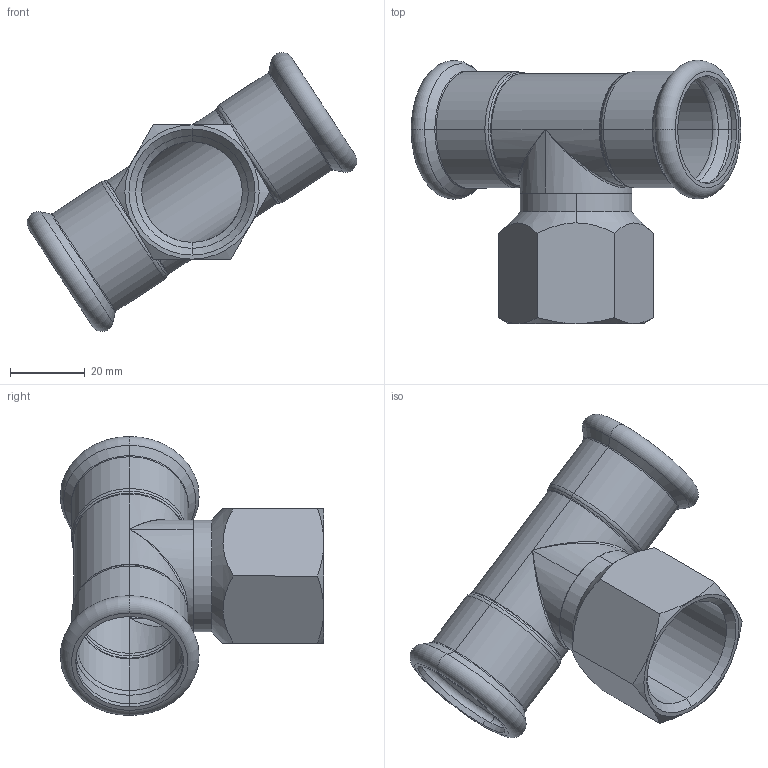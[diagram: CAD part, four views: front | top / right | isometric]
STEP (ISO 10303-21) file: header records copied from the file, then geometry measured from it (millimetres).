
FILE_DESCRIPTION (( 'STEP AP203' ), '1' );
FILE_NAME ('GDA5248.STEP', '2019-01-14T00:59:55', ( '' ), ( '' ), 'SwSTEP 2.0', 'SolidWorks 2015', '' );
FILE_SCHEMA (( 'CONFIG_CONTROL_DESIGN' ));
Length unit declared in the file: millimetre
Products named in the file (3): ITC-I-03-28℅1; T(R)-¢ñ-28¡Á28''; GDA5248
Assembly tree (2 placements, depth 2):
  GDA5248
    ITC-I-03-28℅1
    T(R)-¢ñ-28¡Á28''
Bounding box: 88.35 x 70.6 x 74.78 mm (x, y, z)
Volume: 25023.7 mm3; surface area: 25066.2 mm2
Topology: 2 solids, 2 shells, 104 faces, 219 edges, 114 vertices
Faces by surface type: torus 32, cone 28, cylinder 28, plane 13, bspline 3
Entity records: 3433 total; most frequent: CARTESIAN_POINT 932, DIRECTION 526, ORIENTED_EDGE 426, AXIS2_PLACEMENT_3D 234, EDGE_CURVE 213, CIRCLE 128, VERTEX_POINT 114, EDGE_LOOP 111
